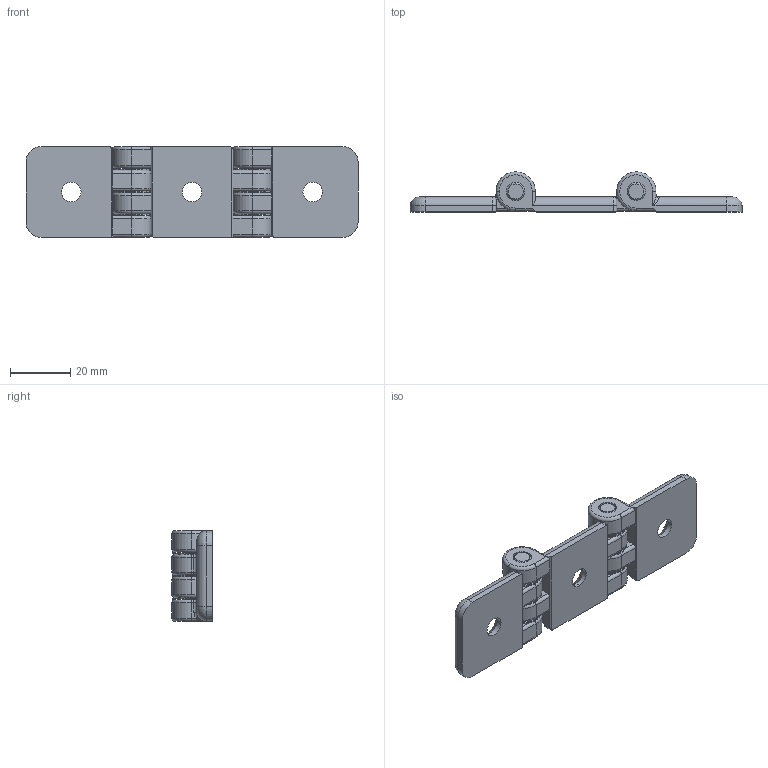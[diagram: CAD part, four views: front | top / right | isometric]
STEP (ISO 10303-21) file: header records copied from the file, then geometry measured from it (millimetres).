
FILE_DESCRIPTION (( 'STEP AP214' ), '1' );
FILE_NAME ('B30 KH-267W-3.STEP', '2012-03-20T06:11:42', ( '' ), ( '' ), 'SwSTEP 2.0', 'SolidWorks 2012', '' );
FILE_SCHEMA (( 'AUTOMOTIVE_DESIGN' ));
Length unit declared in the file: millimetre
Products named in the file (5): KH-267W-3(WASHER); KH-267W-3(PIN); KH-267W-3(BODY(2)); KH-267W-3(BODY(1)); B30 KH-267W-3
Assembly tree (11 placements, depth 2):
  B30 KH-267W-3
    KH-267W-3(BODY(1))  x2
    KH-267W-3(BODY(2))
    KH-267W-3(PIN)  x2
    KH-267W-3(WASHER)  x6
Bounding box: 110 x 13.3 x 30 mm (x, y, z)
Volume: 19275.8 mm3; surface area: 13410.7 mm2
Topology: 11 solids, 11 shells, 247 faces, 587 edges, 360 vertices
Faces by surface type: cylinder 124, plane 70, torus 37, cone 14, bspline 2
Entity records: 4828 total; most frequent: CARTESIAN_POINT 890, DIRECTION 865, ORIENTED_EDGE 738, EDGE_CURVE 369, AXIS2_PLACEMENT_3D 345, VERTEX_POINT 226, CIRCLE 181, VECTOR 175
